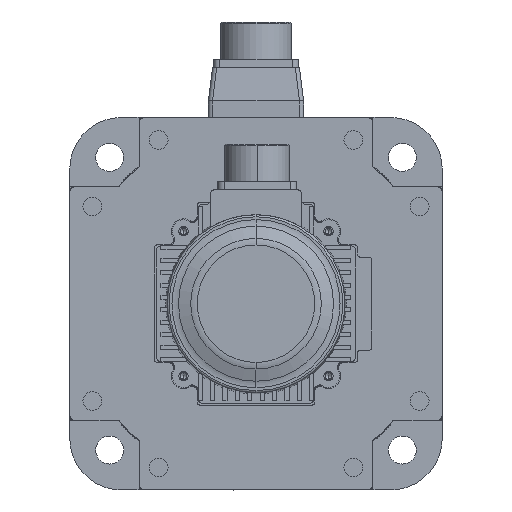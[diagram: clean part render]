
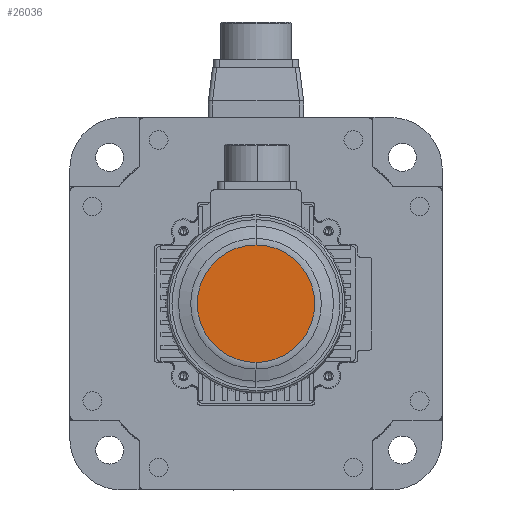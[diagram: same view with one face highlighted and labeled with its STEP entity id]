
A CAD part, left-side view. The second image highlights one B-rep face of the part: STEP entity #26036.
In plain terms, the highlighted planar face has unit normal (-1, 0, 0).
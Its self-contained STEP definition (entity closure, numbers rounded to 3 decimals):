
#1956 = CARTESIAN_POINT ( 'NONE',  ( -278., -28.377, 0. ) ) ;
#10983 = DIRECTION ( 'NONE',  ( 0., 0., 1. ) ) ;
#11486 = DIRECTION ( 'NONE',  ( 1., 0., 0. ) ) ;
#17304 = CIRCLE ( 'NONE', #75136, 28.377 ) ;
#18277 = EDGE_CURVE ( 'NONE', #86517, #93549, #17304, .T. ) ;
#26036 = ADVANCED_FACE ( 'NONE', ( #64284 ), #78387, .F. ) ;
#28445 = AXIS2_PLACEMENT_3D ( 'NONE', #1956, #62790, #85445 ) ;
#29028 = ORIENTED_EDGE ( 'NONE', *, *, #87599, .F. ) ;
#29518 = CARTESIAN_POINT ( 'NONE',  ( -278., 0., 0. ) ) ;
#44920 = CARTESIAN_POINT ( 'NONE',  ( -278., 0., -28.377 ) ) ;
#48316 = EDGE_LOOP ( 'NONE', ( #29028, #65995 ) ) ;
#52599 = DIRECTION ( 'NONE',  ( 0., 0., 1. ) ) ;
#62790 = DIRECTION ( 'NONE',  ( 1., 0., 0. ) ) ;
#64245 = CARTESIAN_POINT ( 'NONE',  ( -278., 0., 0. ) ) ;
#64284 = FACE_OUTER_BOUND ( 'NONE', #48316, .T. ) ;
#65995 = ORIENTED_EDGE ( 'NONE', *, *, #18277, .F. ) ;
#75136 = AXIS2_PLACEMENT_3D ( 'NONE', #64245, #11486, #10983 ) ;
#77548 = DIRECTION ( 'NONE',  ( 1., 0., 0. ) ) ;
#78387 = PLANE ( 'NONE',  #28445 ) ;
#81937 = CIRCLE ( 'NONE', #83526, 28.377 ) ;
#83526 = AXIS2_PLACEMENT_3D ( 'NONE', #29518, #77548, #52599 ) ;
#85445 = DIRECTION ( 'NONE',  ( 0., 0., 1. ) ) ;
#86060 = CARTESIAN_POINT ( 'NONE',  ( -278., 0., 28.377 ) ) ;
#86517 = VERTEX_POINT ( 'NONE', #44920 ) ;
#87599 = EDGE_CURVE ( 'NONE', #93549, #86517, #81937, .T. ) ;
#93549 = VERTEX_POINT ( 'NONE', #86060 ) ;
